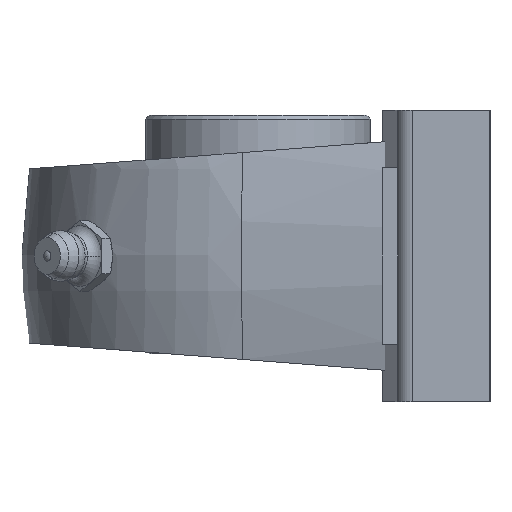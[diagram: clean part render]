
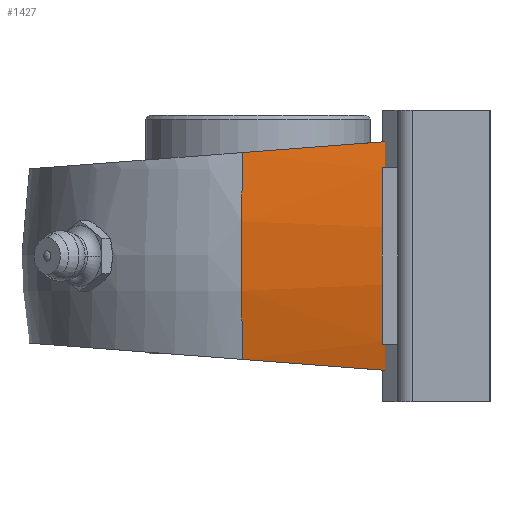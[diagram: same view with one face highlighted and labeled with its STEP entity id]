
A CAD part, left-side view. The second image highlights one B-rep face of the part: STEP entity #1427.
In plain terms, the highlighted cylindrical face has radius 61 mm (diameter 122 mm), a partial arc.
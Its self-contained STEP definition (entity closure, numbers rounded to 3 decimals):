
#103 = EDGE_CURVE ( 'NONE', #1248, #1407, #1109, .T. ) ;
#104 = CARTESIAN_POINT ( 'NONE',  ( 30.127, -2.094, 0. ) ) ;
#118 = CARTESIAN_POINT ( 'NONE',  ( -30.176, -16.531, -14.879 ) ) ;
#202 = CARTESIAN_POINT ( 'NONE',  ( -29.226, 2.031, -13.461 ) ) ;
#280 = CARTESIAN_POINT ( 'NONE',  ( -30.973, -16.571, -11.273 ) ) ;
#286 = EDGE_CURVE ( 'NONE', #826, #4005, #2099, .T. ) ;
#292 = CARTESIAN_POINT ( 'NONE',  ( -29.549, -4.174, 13.935 ) ) ;
#298 = CIRCLE ( 'NONE', #690, 61. ) ;
#427 =( BOUNDED_CURVE ( )  B_SPLINE_CURVE ( 3, ( #2418, #3920, #3939, #2075 ),
 .UNSPECIFIED., .F., .F. ) 
 B_SPLINE_CURVE_WITH_KNOTS ( ( 4, 4 ),
 ( 0.186, 0.246 ),
 .UNSPECIFIED. ) 
 CURVE ( )  GEOMETRIC_REPRESENTATION_ITEM ( )  RATIONAL_B_SPLINE_CURVE ( ( 1., 1., 1., 1. ) ) 
 REPRESENTATION_ITEM ( '' )  );
#587 = CARTESIAN_POINT ( 'NONE',  ( -30.744, -16.56, -12.483 ) ) ;
#690 = AXIS2_PLACEMENT_3D ( 'NONE', #104, #1635, #2006 ) ;
#738 = EDGE_CURVE ( 'NONE', #1596, #3264, #948, .T. ) ;
#739 =( BOUNDED_CURVE ( )  B_SPLINE_CURVE ( 3, ( #4810, #2174, #4416, #3625 ),
 .UNSPECIFIED., .F., .T. ) 
 B_SPLINE_CURVE_WITH_KNOTS ( ( 4, 4 ),
 ( 0.184, 0.186 ),
 .UNSPECIFIED. ) 
 CURVE ( )  GEOMETRIC_REPRESENTATION_ITEM ( )  RATIONAL_B_SPLINE_CURVE ( ( 1., 1., 1., 1. ) ) 
 REPRESENTATION_ITEM ( '' )  );
#803 = CYLINDRICAL_SURFACE ( 'NONE', #4855, 61. ) ;
#826 = VERTEX_POINT ( 'NONE', #202 ) ;
#862 = ORIENTED_EDGE ( 'NONE', *, *, #103, .T. ) ;
#927 = CARTESIAN_POINT ( 'NONE',  ( -29.866, -10.362, 14.408 ) ) ;
#948 =( BOUNDED_CURVE ( )  B_SPLINE_CURVE ( 3, ( #4651, #927, #292, #2700 ),
 .UNSPECIFIED., .F., .T. ) 
 B_SPLINE_CURVE_WITH_KNOTS ( ( 4, 4 ),
 ( 1.319, 1.343 ),
 .UNSPECIFIED. ) 
 CURVE ( )  GEOMETRIC_REPRESENTATION_ITEM ( )  RATIONAL_B_SPLINE_CURVE ( ( 1., 1., 1., 1. ) ) 
 REPRESENTATION_ITEM ( '' )  );
#982 = CARTESIAN_POINT ( 'NONE',  ( -30.176, -16.531, -14.879 ) ) ;
#1089 = CARTESIAN_POINT ( 'NONE',  ( -30.973, -16.2, 11.136 ) ) ;
#1109 =( BOUNDED_CURVE ( )  B_SPLINE_CURVE ( 3, ( #4854, #3744, #4556, #3701 ),
 .UNSPECIFIED., .F., .T. ) 
 B_SPLINE_CURVE_WITH_KNOTS ( ( 4, 4 ),
 ( 6.1, 6.467 ),
 .UNSPECIFIED. ) 
 CURVE ( )  GEOMETRIC_REPRESENTATION_ITEM ( )  RATIONAL_B_SPLINE_CURVE ( ( 1., 0.989, 0.989, 1. ) ) 
 REPRESENTATION_ITEM ( '' )  );
#1141 = CARTESIAN_POINT ( 'NONE',  ( 30.127, -2.094, 0. ) ) ;
#1157 = ORIENTED_EDGE ( 'NONE', *, *, #4531, .T. ) ;
#1201 = CARTESIAN_POINT ( 'NONE',  ( -29.549, -4.174, -13.935 ) ) ;
#1248 = VERTEX_POINT ( 'NONE', #4272 ) ;
#1251 = EDGE_CURVE ( 'NONE', #3846, #1596, #427, .T. ) ;
#1252 = CARTESIAN_POINT ( 'NONE',  ( -30.973, -16.571, -11.273 ) ) ;
#1407 = VERTEX_POINT ( 'NONE', #1089 ) ;
#1412 = ORIENTED_EDGE ( 'NONE', *, *, #1251, .T. ) ;
#1427 = ADVANCED_FACE ( 'NONE', ( #1487 ), #803, .T. ) ;
#1487 = FACE_OUTER_BOUND ( 'NONE', #2199, .T. ) ;
#1596 = VERTEX_POINT ( 'NONE', #4353 ) ;
#1635 = DIRECTION ( 'NONE',  ( 0.069, 0.998, 0. ) ) ;
#1683 = EDGE_CURVE ( 'NONE', #826, #3264, #298, .T. ) ;
#1707 = CARTESIAN_POINT ( 'NONE',  ( -30.176, -16.531, -14.879 ) ) ;
#1841 = ORIENTED_EDGE ( 'NONE', *, *, #1683, .F. ) ;
#1860 = CARTESIAN_POINT ( 'NONE',  ( -30.973, -16.571, 11.273 ) ) ;
#2006 = DIRECTION ( 'NONE',  ( -0.998, 0.069, 0. ) ) ;
#2017 = CARTESIAN_POINT ( 'NONE',  ( -30.972, -16.323, -11.181 ) ) ;
#2075 = CARTESIAN_POINT ( 'NONE',  ( -30.176, -16.531, 14.879 ) ) ;
#2099 =( BOUNDED_CURVE ( )  B_SPLINE_CURVE ( 3, ( #4579, #1201, #3495, #118 ),
 .UNSPECIFIED., .F., .T. ) 
 B_SPLINE_CURVE_WITH_KNOTS ( ( 4, 4 ),
 ( 1.799, 1.823 ),
 .UNSPECIFIED. ) 
 CURVE ( )  GEOMETRIC_REPRESENTATION_ITEM ( )  RATIONAL_B_SPLINE_CURVE ( ( 1., 1., 1., 1. ) ) 
 REPRESENTATION_ITEM ( '' )  );
#2174 = CARTESIAN_POINT ( 'NONE',  ( -30.973, -16.323, 11.181 ) ) ;
#2199 = EDGE_LOOP ( 'NONE', ( #4042, #1157, #862, #4539, #1412, #3446, #1841, #2445 ) ) ;
#2304 = DIRECTION ( 'NONE',  ( 0., 0., 1. ) ) ;
#2418 = CARTESIAN_POINT ( 'NONE',  ( -30.973, -16.571, 11.273 ) ) ;
#2437 = CARTESIAN_POINT ( 'NONE',  ( -30.478, -16.546, -13.686 ) ) ;
#2445 = ORIENTED_EDGE ( 'NONE', *, *, #286, .T. ) ;
#2490 = CARTESIAN_POINT ( 'NONE',  ( -30.973, -16.571, -11.273 ) ) ;
#2528 = EDGE_CURVE ( 'NONE', #4005, #4041, #3636, .T. ) ;
#2700 = CARTESIAN_POINT ( 'NONE',  ( -29.226, 2.031, 13.461 ) ) ;
#3264 = VERTEX_POINT ( 'NONE', #3310 ) ;
#3305 = EDGE_CURVE ( 'NONE', #1407, #3846, #739, .T. ) ;
#3310 = CARTESIAN_POINT ( 'NONE',  ( -29.226, 2.031, 13.461 ) ) ;
#3395 = DIRECTION ( 'NONE',  ( 0.069, 0.998, 0. ) ) ;
#3446 = ORIENTED_EDGE ( 'NONE', *, *, #738, .T. ) ;
#3495 = CARTESIAN_POINT ( 'NONE',  ( -29.866, -10.362, -14.408 ) ) ;
#3625 = CARTESIAN_POINT ( 'NONE',  ( -30.973, -16.571, 11.273 ) ) ;
#3636 =( BOUNDED_CURVE ( )  B_SPLINE_CURVE ( 3, ( #982, #2437, #587, #2490 ),
 .UNSPECIFIED., .F., .F. ) 
 B_SPLINE_CURVE_WITH_KNOTS ( ( 4, 4 ),
 ( 6.037, 6.097 ),
 .UNSPECIFIED. ) 
 CURVE ( )  GEOMETRIC_REPRESENTATION_ITEM ( )  RATIONAL_B_SPLINE_CURVE ( ( 1., 1., 1., 1. ) ) 
 REPRESENTATION_ITEM ( '' )  );
#3701 = CARTESIAN_POINT ( 'NONE',  ( -30.973, -16.2, 11.136 ) ) ;
#3744 = CARTESIAN_POINT ( 'NONE',  ( -32.346, -16.2, -3.754 ) ) ;
#3842 = CARTESIAN_POINT ( 'NONE',  ( -30.972, -16.447, -11.227 ) ) ;
#3846 = VERTEX_POINT ( 'NONE', #1860 ) ;
#3920 = CARTESIAN_POINT ( 'NONE',  ( -30.744, -16.56, 12.483 ) ) ;
#3939 = CARTESIAN_POINT ( 'NONE',  ( -30.478, -16.546, 13.686 ) ) ;
#4005 = VERTEX_POINT ( 'NONE', #1707 ) ;
#4041 = VERTEX_POINT ( 'NONE', #280 ) ;
#4042 = ORIENTED_EDGE ( 'NONE', *, *, #2528, .T. ) ;
#4272 = CARTESIAN_POINT ( 'NONE',  ( -30.973, -16.2, -11.136 ) ) ;
#4283 = CARTESIAN_POINT ( 'NONE',  ( -30.973, -16.2, -11.136 ) ) ;
#4353 = CARTESIAN_POINT ( 'NONE',  ( -30.176, -16.531, 14.879 ) ) ;
#4416 = CARTESIAN_POINT ( 'NONE',  ( -30.973, -16.447, 11.227 ) ) ;
#4485 =( BOUNDED_CURVE ( )  B_SPLINE_CURVE ( 3, ( #1252, #3842, #2017, #4283 ),
 .UNSPECIFIED., .F., .T. ) 
 B_SPLINE_CURVE_WITH_KNOTS ( ( 4, 4 ),
 ( 6.097, 6.1 ),
 .UNSPECIFIED. ) 
 CURVE ( )  GEOMETRIC_REPRESENTATION_ITEM ( )  RATIONAL_B_SPLINE_CURVE ( ( 1., 1., 1., 1. ) ) 
 REPRESENTATION_ITEM ( '' )  );
#4531 = EDGE_CURVE ( 'NONE', #4041, #1248, #4485, .T. ) ;
#4539 = ORIENTED_EDGE ( 'NONE', *, *, #3305, .T. ) ;
#4556 = CARTESIAN_POINT ( 'NONE',  ( -32.346, -16.2, 3.754 ) ) ;
#4579 = CARTESIAN_POINT ( 'NONE',  ( -29.226, 2.031, -13.461 ) ) ;
#4651 = CARTESIAN_POINT ( 'NONE',  ( -30.176, -16.531, 14.879 ) ) ;
#4810 = CARTESIAN_POINT ( 'NONE',  ( -30.973, -16.2, 11.136 ) ) ;
#4854 = CARTESIAN_POINT ( 'NONE',  ( -30.973, -16.2, -11.136 ) ) ;
#4855 = AXIS2_PLACEMENT_3D ( 'NONE', #1141, #3395, #2304 ) ;
